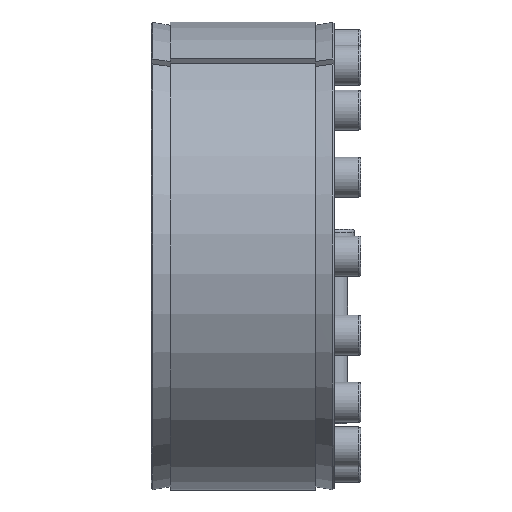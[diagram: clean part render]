
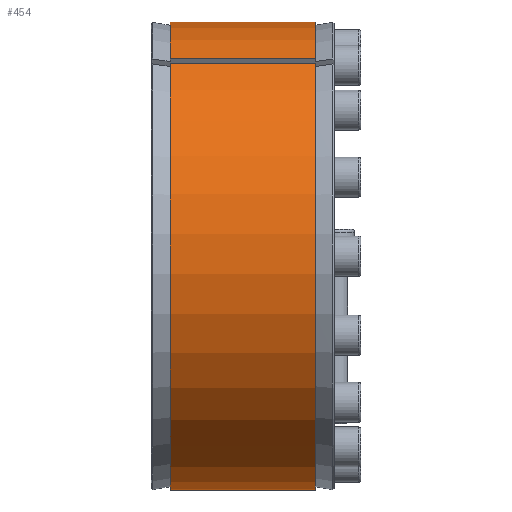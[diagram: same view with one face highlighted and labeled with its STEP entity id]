
A CAD part, left-side view. The second image highlights one B-rep face of the part: STEP entity #454.
In plain terms, the highlighted cylindrical face has radius 105 mm (diameter 210 mm), a partial arc.
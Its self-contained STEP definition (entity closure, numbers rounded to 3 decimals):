
#454 = ADVANCED_FACE( '', ( #800 ), #801, .T. );
#800 = FACE_OUTER_BOUND( '', #1152, .T. );
#801 = CYLINDRICAL_SURFACE( '', #1153, 105. );
#1152 = EDGE_LOOP( '', ( #1790, #1791, #1792, #1793 ) );
#1153 = AXIS2_PLACEMENT_3D( '', #1794, #1795, #1796 );
#1790 = ORIENTED_EDGE( '', *, *, #2376, .T. );
#1791 = ORIENTED_EDGE( '', *, *, #2339, .T. );
#1792 = ORIENTED_EDGE( '', *, *, #2400, .F. );
#1793 = ORIENTED_EDGE( '', *, *, #2488, .T. );
#1794 = CARTESIAN_POINT( '', ( 0., -60., 0. ) );
#1795 = DIRECTION( '', ( 0., 1., 0. ) );
#1796 = DIRECTION( '', ( 0., 0., -1. ) );
#2339 = EDGE_CURVE( '', #2670, #2668, #2671, .T. );
#2376 = EDGE_CURVE( '', #2738, #2670, #2739, .T. );
#2400 = EDGE_CURVE( '', #2782, #2668, #2783, .T. );
#2488 = EDGE_CURVE( '', #2782, #2738, #2932, .F. );
#2668 = VERTEX_POINT( '', #3129 );
#2670 = VERTEX_POINT( '', #3132 );
#2671 = LINE( '', #3133, #3134 );
#2738 = VERTEX_POINT( '', #3226 );
#2739 = CIRCLE( '', #3227, 105. );
#2782 = VERTEX_POINT( '', #3278 );
#2783 = CIRCLE( '', #3279, 105. );
#2932 = LINE( '', #3618, #3619 );
#3129 = CARTESIAN_POINT( '', ( -56.661, 8.5, 88.4 ) );
#3132 = CARTESIAN_POINT( '', ( -56.661, 73.5, 88.4 ) );
#3133 = CARTESIAN_POINT( '', ( -56.661, -60., 88.4 ) );
#3134 = VECTOR( '', #3764, 1000. );
#3226 = CARTESIAN_POINT( '', ( -59.987, 73.5, 86.177 ) );
#3227 = AXIS2_PLACEMENT_3D( '', #3844, #3845, #3846 );
#3278 = CARTESIAN_POINT( '', ( -59.987, 8.5, 86.177 ) );
#3279 = AXIS2_PLACEMENT_3D( '', #3906, #3907, #3908 );
#3618 = CARTESIAN_POINT( '', ( -59.987, -60., 86.177 ) );
#3619 = VECTOR( '', #4103, 1000. );
#3764 = DIRECTION( '', ( 0., -1., 0. ) );
#3844 = CARTESIAN_POINT( '', ( 0., 73.5, 0. ) );
#3845 = DIRECTION( '', ( 0., -1., 0. ) );
#3846 = DIRECTION( '', ( 0., 0., -1. ) );
#3906 = CARTESIAN_POINT( '', ( 0., 8.5, 0. ) );
#3907 = DIRECTION( '', ( 0., -1., 0. ) );
#3908 = DIRECTION( '', ( 0., 0., -1. ) );
#4103 = DIRECTION( '', ( 0., -1., 0. ) );
